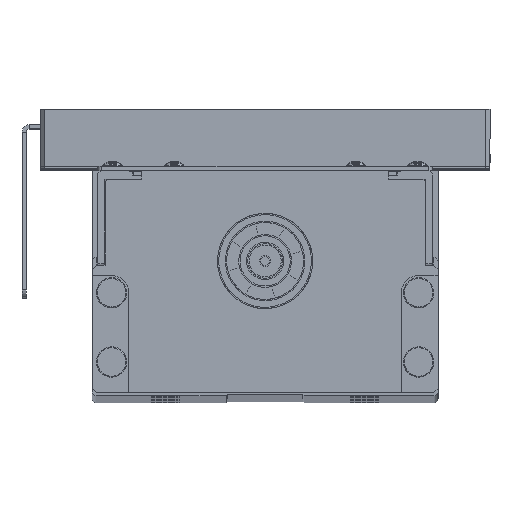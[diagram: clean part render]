
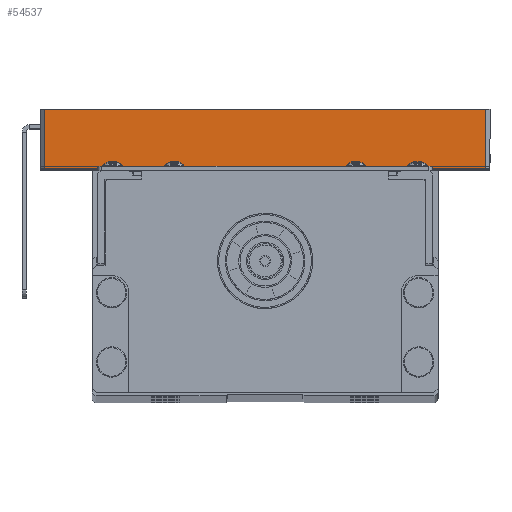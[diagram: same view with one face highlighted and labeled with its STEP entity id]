
A CAD part, top view. The second image highlights one B-rep face of the part: STEP entity #54537.
In plain terms, the highlighted planar face has unit normal (0, 0, 1).
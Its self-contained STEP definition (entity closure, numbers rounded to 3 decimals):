
#1651 = VECTOR ( 'NONE', #38915, 1000. ) ;
#1856 = CARTESIAN_POINT ( 'NONE',  ( 51., 54.3, 50. ) ) ;
#2815 = VECTOR ( 'NONE', #42737, 1000. ) ;
#5767 = CARTESIAN_POINT ( 'NONE',  ( -51., 54.3, 50. ) ) ;
#9547 = ORIENTED_EDGE ( 'NONE', *, *, #10834, .T. ) ;
#10834 = EDGE_CURVE ( 'NONE', #43607, #59289, #23284, .T. ) ;
#19894 = VECTOR ( 'NONE', #42604, 1000. ) ;
#22326 = LINE ( 'NONE', #22746, #19894 ) ;
#22712 = VECTOR ( 'NONE', #57381, 1000. ) ;
#22746 = CARTESIAN_POINT ( 'NONE',  ( -52., 54.3, 50. ) ) ;
#23284 = LINE ( 'NONE', #49068, #2815 ) ;
#25401 = LINE ( 'NONE', #69382, #1651 ) ;
#26059 = PLANE ( 'NONE',  #31404 ) ;
#31404 = AXIS2_PLACEMENT_3D ( 'NONE', #40411, #34067, #39993 ) ;
#31568 = CARTESIAN_POINT ( 'NONE',  ( 51., 68., 50. ) ) ;
#33429 = CARTESIAN_POINT ( 'NONE',  ( -51., 54.3, 50. ) ) ;
#34067 = DIRECTION ( 'NONE',  ( 0., 0., 1. ) ) ;
#38729 = ORIENTED_EDGE ( 'NONE', *, *, #79974, .T. ) ;
#38915 = DIRECTION ( 'NONE',  ( 1., 0., 0. ) ) ;
#39993 = DIRECTION ( 'NONE',  ( 1., 0., 0. ) ) ;
#40411 = CARTESIAN_POINT ( 'NONE',  ( 0., 68., 50. ) ) ;
#41251 = ORIENTED_EDGE ( 'NONE', *, *, #44369, .F. ) ;
#41927 = VERTEX_POINT ( 'NONE', #44041 ) ;
#42604 = DIRECTION ( 'NONE',  ( -1., 0., 0. ) ) ;
#42737 = DIRECTION ( 'NONE',  ( 0., 1., 0. ) ) ;
#42964 = EDGE_LOOP ( 'NONE', ( #41251, #9547, #48625, #38729 ) ) ;
#43607 = VERTEX_POINT ( 'NONE', #1856 ) ;
#44041 = CARTESIAN_POINT ( 'NONE',  ( -51., 68., 50. ) ) ;
#44369 = EDGE_CURVE ( 'NONE', #43607, #49477, #22326, .T. ) ;
#45502 = FACE_OUTER_BOUND ( 'NONE', #42964, .T. ) ;
#48625 = ORIENTED_EDGE ( 'NONE', *, *, #73292, .F. ) ;
#49068 = CARTESIAN_POINT ( 'NONE',  ( 51., 68., 50. ) ) ;
#49477 = VERTEX_POINT ( 'NONE', #33429 ) ;
#54537 = ADVANCED_FACE ( 'NONE', ( #45502 ), #26059, .T. ) ;
#57381 = DIRECTION ( 'NONE',  ( 0., -1., 0. ) ) ;
#59289 = VERTEX_POINT ( 'NONE', #31568 ) ;
#69382 = CARTESIAN_POINT ( 'NONE',  ( 52., 68., 50. ) ) ;
#73292 = EDGE_CURVE ( 'NONE', #41927, #59289, #25401, .T. ) ;
#76445 = LINE ( 'NONE', #5767, #22712 ) ;
#79974 = EDGE_CURVE ( 'NONE', #41927, #49477, #76445, .T. ) ;
